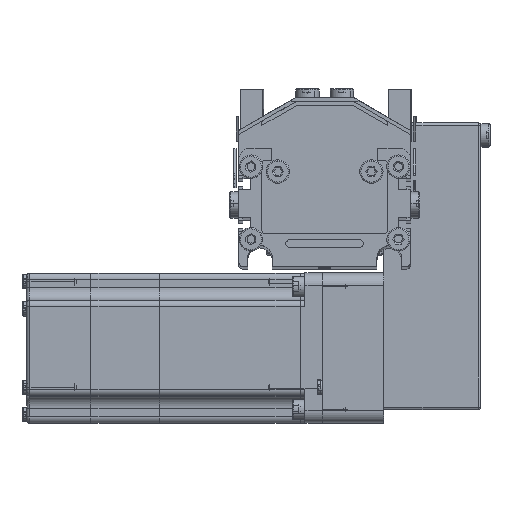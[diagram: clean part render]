
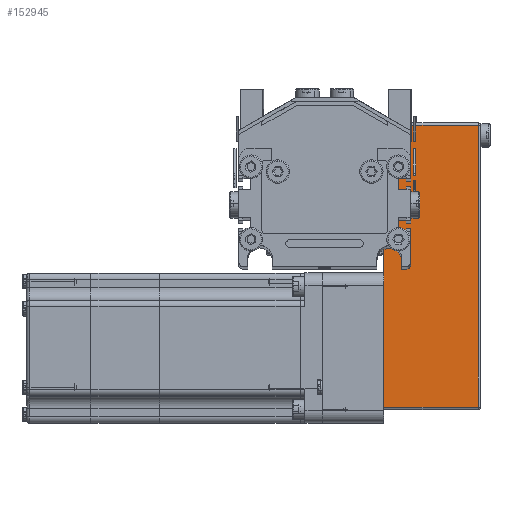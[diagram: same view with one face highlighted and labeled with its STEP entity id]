
A CAD part, top view. The second image highlights one B-rep face of the part: STEP entity #152945.
In plain terms, the highlighted planar face has unit normal (0, 0, 1) as drawn and (0, -1, 0) by its records, which use the part's own axes.
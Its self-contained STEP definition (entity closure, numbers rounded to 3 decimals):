
#104813 = LINE ( 'NONE', #104984, #104983 ) ;
#104860 = CARTESIAN_POINT ( 'NONE',  ( 65.5, -25., 38.5 ) ) ;
#104981 = DIRECTION ( 'NONE',  ( -1., 0., 0. ) ) ;
#104983 = VECTOR ( 'NONE', #104981, 1000. ) ;
#104984 = CARTESIAN_POINT ( 'NONE',  ( -50., -25., 38.5 ) ) ;
#104996 = CARTESIAN_POINT ( 'NONE',  ( -49., -25., 38.5 ) ) ;
#105007 = PLANE ( 'NONE',  #105086 ) ;
#105086 = AXIS2_PLACEMENT_3D ( 'NONE', #105203, #105201, #105198 ) ;
#105198 = DIRECTION ( 'NONE',  ( 0., 0., 1. ) ) ;
#105201 = DIRECTION ( 'NONE',  ( 0., 1., 0. ) ) ;
#105203 = CARTESIAN_POINT ( 'NONE',  ( -50., -25., 39.5 ) ) ;
#105224 = FACE_OUTER_BOUND ( 'NONE', #153139, .T. ) ;
#105516 = CARTESIAN_POINT ( 'NONE',  ( 65.5, -25., 0. ) ) ;
#105866 = VECTOR ( 'NONE', #106011, 1000. ) ;
#105977 = DIRECTION ( 'NONE',  ( 0., 0., 1. ) ) ;
#105988 = CARTESIAN_POINT ( 'NONE',  ( 65.5, -25., 39.5 ) ) ;
#105989 = LINE ( 'NONE', #105988, #106035 ) ;
#106011 = DIRECTION ( 'NONE',  ( 0., 0., -1. ) ) ;
#106035 = VECTOR ( 'NONE', #105977, 1000. ) ;
#106049 = CARTESIAN_POINT ( 'NONE',  ( -49., -25., 39.5 ) ) ;
#106051 = LINE ( 'NONE', #106049, #105866 ) ;
#106662 = DIRECTION ( 'NONE',  ( 1., 0., 0. ) ) ;
#106663 = VECTOR ( 'NONE', #106662, 1000. ) ;
#106672 = CARTESIAN_POINT ( 'NONE',  ( -49., -25., 0. ) ) ;
#106682 = CARTESIAN_POINT ( 'NONE',  ( -50., -25., 0. ) ) ;
#106723 = LINE ( 'NONE', #106682, #106663 ) ;
#152839 = VERTEX_POINT ( 'NONE', #104860 ) ;
#152881 = VERTEX_POINT ( 'NONE', #104996 ) ;
#152882 = EDGE_CURVE ( 'NONE', #152839, #152881, #104813, .T. ) ;
#152945 = ADVANCED_FACE ( 'NONE', ( #105224 ), #105007, .F. ) ;
#152946 = ORIENTED_EDGE ( 'NONE', *, *, #153290, .T. ) ;
#153044 = VERTEX_POINT ( 'NONE', #105516 ) ;
#153100 = EDGE_CURVE ( 'NONE', #152881, #153292, #106051, .T. ) ;
#153104 = ORIENTED_EDGE ( 'NONE', *, *, #153100, .T. ) ;
#153106 = ORIENTED_EDGE ( 'NONE', *, *, #153108, .T. ) ;
#153108 = EDGE_CURVE ( 'NONE', #153044, #152839, #105989, .T. ) ;
#153109 = ORIENTED_EDGE ( 'NONE', *, *, #152882, .T. ) ;
#153139 = EDGE_LOOP ( 'NONE', ( #153109, #153104, #152946, #153106 ) ) ;
#153290 = EDGE_CURVE ( 'NONE', #153292, #153044, #106723, .T. ) ;
#153292 = VERTEX_POINT ( 'NONE', #106672 ) ;
